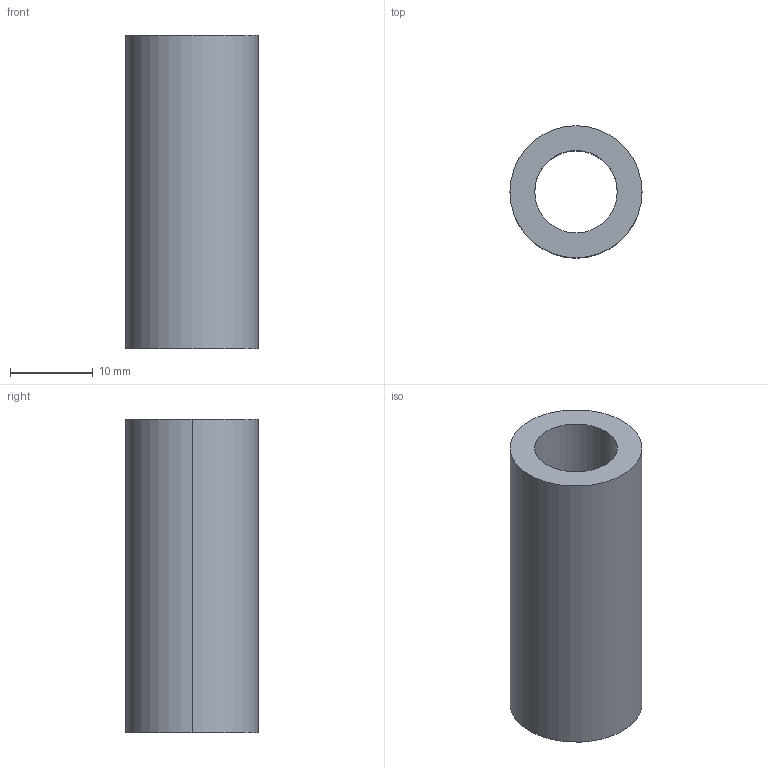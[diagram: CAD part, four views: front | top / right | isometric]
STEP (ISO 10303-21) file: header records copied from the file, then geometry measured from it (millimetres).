
FILE_DESCRIPTION (( 'STEP AP214' ), '1' );
FILE_NAME ('Abstandshalter4.STEP', '2016-12-28T08:47:14', ( '' ), ( '' ), 'SwSTEP 2.0', 'SolidWorks 2016', '' );
FILE_SCHEMA (( 'AUTOMOTIVE_DESIGN' ));
Length unit declared in the file: millimetre
Products named in the file (1): Abstandshalter4
Bounding box: 16 x 16 x 38 mm (x, y, z)
Volume: 4655.8 mm3; surface area: 3348.9 mm2
Topology: 1 solids, 1 shells, 6 faces, 12 edges, 8 vertices
Faces by surface type: cylinder 4, plane 2
Entity records: 202 total; most frequent: DIRECTION 34, CARTESIAN_POINT 27, ORIENTED_EDGE 24, AXIS2_PLACEMENT_3D 15, EDGE_CURVE 12, CIRCLE 8, VERTEX_POINT 8, EDGE_LOOP 8
